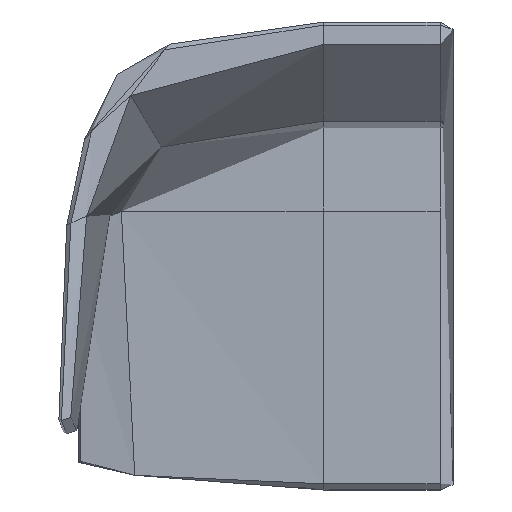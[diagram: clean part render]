
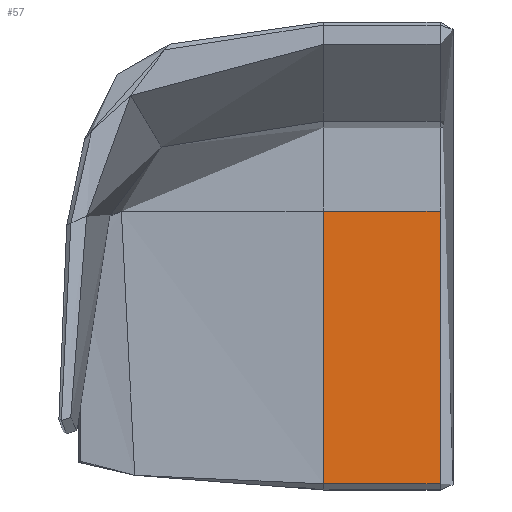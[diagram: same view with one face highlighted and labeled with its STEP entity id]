
A CAD part, top view. The second image highlights one B-rep face of the part: STEP entity #57.
In plain terms, the highlighted free-form (B-spline) face has degree [3, 1] with [14, 2] control points.
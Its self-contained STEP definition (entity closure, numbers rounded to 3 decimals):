
#57=ADVANCED_FACE('',(#127),#1014,.T.);
#127=FACE_OUTER_BOUND('',#197,.T.);
#197=EDGE_LOOP('',(#327,#328,#329,#330));
#327=ORIENTED_EDGE('',*,*,#544,.T.);
#328=ORIENTED_EDGE('',*,*,#582,.T.);
#329=ORIENTED_EDGE('',*,*,#583,.F.);
#330=ORIENTED_EDGE('',*,*,#535,.T.);
#535=EDGE_CURVE('',#863,#864,#816,.T.);
#544=EDGE_CURVE('',#864,#872,#703,.T.);
#582=EDGE_CURVE('',#872,#891,#828,.T.);
#583=EDGE_CURVE('',#863,#891,#829,.T.);
#703=(
BOUNDED_CURVE()
B_SPLINE_CURVE(3,(#4979,#4980,#4981,#4982,#4983,#4984,#4985,#4986,#4987,
#4988,#4989,#4990,#4991,#4992,#4993,#4994,#4995,#4996,#4997,#4998,#4999,
#5000,#5001,#5002,#5003,#5004,#5005,#5006),.UNSPECIFIED.,.F.,.F.)
B_SPLINE_CURVE_WITH_KNOTS((4,3,3,3,3,3,3,3,3,4),(-3.,-2.938,-2.875,-2.75,
-2.5,-2.,-1.5,-1.,-0.5,0.),.UNSPECIFIED.)
CURVE()
GEOMETRIC_REPRESENTATION_ITEM()
RATIONAL_B_SPLINE_CURVE((1.,1.,1.,1.,1.,1.,
1.,1.,1.,1.,1.,
1.,1.,1.,1.,1.,1.,1.,
1.,1.,1.,1.,
1.,1.,1.,1.,
1.,1.))
REPRESENTATION_ITEM('')
);
#816=B_SPLINE_CURVE_WITH_KNOTS('',1,(#4817,#4818),.UNSPECIFIED.,.F.,.F.,
(2,2),(-1.,0.),.UNSPECIFIED.);
#828=B_SPLINE_CURVE_WITH_KNOTS('',1,(#5768,#5769),.UNSPECIFIED.,.F.,.F.,
(2,2),(0.,180.),.UNSPECIFIED.);
#829=B_SPLINE_CURVE_WITH_KNOTS('',3,(#5770,#5771,#5772,#5773,#5774,#5775,
#5776,#5777,#5778,#5779,#5780,#5781,#5782,#5783),.UNSPECIFIED.,.F.,.F.,
(4,2,2,1,1,1,1,1,1,4),(286.233,286.295,286.358,
286.483,286.733,287.233,287.733,288.233,
288.733,289.233),.UNSPECIFIED.);
#863=VERTEX_POINT('',#4776);
#864=VERTEX_POINT('',#4777);
#872=VERTEX_POINT('',#4785);
#891=VERTEX_POINT('',#4804);
#1014=B_SPLINE_SURFACE_WITH_KNOTS('',3,1,((#4199,#4200),(#4201,#4202),(#4203,
#4204),(#4205,#4206),(#4207,#4208),(#4209,#4210),(#4211,#4212),(#4213,#4214),
(#4215,#4216),(#4217,#4218),(#4219,#4220),(#4221,#4222),(#4223,#4224),(#4225,
#4226)),.UNSPECIFIED.,.F.,.F.,.F.,(4,2,2,1,1,1,1,1,1,4),(2,2),(286.233,
286.295,286.358,286.483,286.733,287.233,
287.733,288.233,288.733,289.233),(0.,
180.),.UNSPECIFIED.);
#4199=CARTESIAN_POINT('',(105.,69.271,380.111));
#4200=CARTESIAN_POINT('',(285.,69.271,380.111));
#4201=CARTESIAN_POINT('',(105.,66.606,380.33));
#4202=CARTESIAN_POINT('',(285.,66.606,380.33));
#4203=CARTESIAN_POINT('',(105.,63.95,380.546));
#4204=CARTESIAN_POINT('',(285.,63.95,380.546));
#4205=CARTESIAN_POINT('',(105.,58.645,380.974));
#4206=CARTESIAN_POINT('',(285.,58.645,380.974));
#4207=CARTESIAN_POINT('',(105.,55.997,381.185));
#4208=CARTESIAN_POINT('',(285.,55.997,381.185));
#4209=CARTESIAN_POINT('',(105.,48.051,381.814));
#4210=CARTESIAN_POINT('',(285.,48.051,381.814));
#4211=CARTESIAN_POINT('',(105.,32.16,383.048));
#4212=CARTESIAN_POINT('',(285.,32.16,383.048));
#4213=CARTESIAN_POINT('',(105.,-5.614,385.807));
#4214=CARTESIAN_POINT('',(285.,-5.614,385.807));
#4215=CARTESIAN_POINT('',(105.,-65.507,389.689));
#4216=CARTESIAN_POINT('',(285.,-65.507,389.689));
#4217=CARTESIAN_POINT('',(105.,-159.501,395.15));
#4218=CARTESIAN_POINT('',(285.,-159.501,395.15));
#4219=CARTESIAN_POINT('',(105.,-251.303,400.39));
#4220=CARTESIAN_POINT('',(285.,-251.303,400.39));
#4221=CARTESIAN_POINT('',(105.,-316.603,404.385));
#4222=CARTESIAN_POINT('',(285.,-316.603,404.385));
#4223=CARTESIAN_POINT('',(105.,-342.297,401.719));
#4224=CARTESIAN_POINT('',(285.,-342.297,401.719));
#4225=CARTESIAN_POINT('',(105.,-350.641,397.929));
#4226=CARTESIAN_POINT('',(285.,-350.641,397.929));
#4776=CARTESIAN_POINT('',(285.,69.271,380.111));
#4777=CARTESIAN_POINT('',(105.,69.271,380.111));
#4785=CARTESIAN_POINT('',(105.,-350.641,397.929));
#4804=CARTESIAN_POINT('',(285.,-350.641,397.929));
#4817=CARTESIAN_POINT('',(285.,69.271,380.111));
#4818=CARTESIAN_POINT('',(105.,69.271,380.111));
#4979=CARTESIAN_POINT('',(105.,69.271,380.111));
#4980=CARTESIAN_POINT('',(105.,66.606,380.33));
#4981=CARTESIAN_POINT('',(105.,63.95,380.546));
#4982=CARTESIAN_POINT('',(105.,61.297,380.76));
#4983=CARTESIAN_POINT('',(105.,58.645,380.974));
#4984=CARTESIAN_POINT('',(105.,55.997,381.185));
#4985=CARTESIAN_POINT('',(105.,53.348,381.395));
#4986=CARTESIAN_POINT('',(105.,48.051,381.814));
#4987=CARTESIAN_POINT('',(105.,42.754,382.225));
#4988=CARTESIAN_POINT('',(105.,37.424,382.631));
#4989=CARTESIAN_POINT('',(105.,26.764,383.442));
#4990=CARTESIAN_POINT('',(105.,15.972,384.23));
#4991=CARTESIAN_POINT('',(105.,4.784,385.015));
#4992=CARTESIAN_POINT('',(105.,-17.592,386.583));
#4993=CARTESIAN_POINT('',(105.,-41.55,388.136));
#4994=CARTESIAN_POINT('',(105.,-69.194,389.823));
#4995=CARTESIAN_POINT('',(105.,-96.839,391.509));
#4996=CARTESIAN_POINT('',(105.,-128.17,393.329));
#4997=CARTESIAN_POINT('',(105.,-159.136,395.113));
#4998=CARTESIAN_POINT('',(105.,-190.101,396.896));
#4999=CARTESIAN_POINT('',(105.,-220.702,398.643));
#5000=CARTESIAN_POINT('',(105.,-246.886,400.182));
#5001=CARTESIAN_POINT('',(105.,-273.07,401.722));
#5002=CARTESIAN_POINT('',(105.,-294.836,403.053));
#5003=CARTESIAN_POINT('',(105.,-312.143,403.053));
#5004=CARTESIAN_POINT('',(105.,-329.45,403.052));
#5005=CARTESIAN_POINT('',(105.,-342.297,401.719));
#5006=CARTESIAN_POINT('',(105.,-350.641,397.929));
#5768=CARTESIAN_POINT('',(105.,-350.641,397.929));
#5769=CARTESIAN_POINT('',(285.,-350.641,397.929));
#5770=CARTESIAN_POINT('',(285.,69.271,380.111));
#5771=CARTESIAN_POINT('',(285.,66.606,380.33));
#5772=CARTESIAN_POINT('',(285.,63.95,380.546));
#5773=CARTESIAN_POINT('',(285.,58.645,380.974));
#5774=CARTESIAN_POINT('',(285.,55.997,381.185));
#5775=CARTESIAN_POINT('',(285.,48.051,381.814));
#5776=CARTESIAN_POINT('',(285.,32.16,383.048));
#5777=CARTESIAN_POINT('',(285.,-5.614,385.807));
#5778=CARTESIAN_POINT('',(285.,-65.507,389.689));
#5779=CARTESIAN_POINT('',(285.,-159.501,395.15));
#5780=CARTESIAN_POINT('',(285.,-251.303,400.39));
#5781=CARTESIAN_POINT('',(285.,-316.603,404.385));
#5782=CARTESIAN_POINT('',(285.,-342.297,401.719));
#5783=CARTESIAN_POINT('',(285.,-350.641,397.929));
